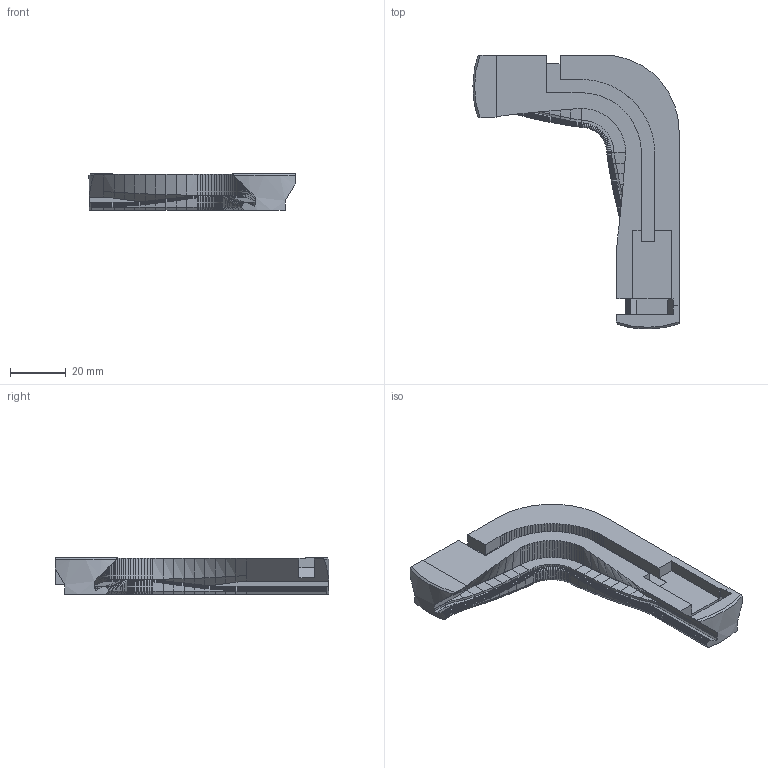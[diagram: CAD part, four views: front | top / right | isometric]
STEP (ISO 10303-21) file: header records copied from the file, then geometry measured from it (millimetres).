
FILE_DESCRIPTION(('Open CASCADE Model'),'2;1');
FILE_NAME('Open CASCADE Shape Model','2026-10-27T10:18:55',('Author'),( 'Open CASCADE'),'Open CASCADE STEP processor 8.0','build123d', 'Unknown');
FILE_SCHEMA(('AUTOMOTIVE_DESIGN { 1 0 10303 214 1 1 1 1 }'));
Products named in the file (1): SOLID
Bounding box: 74.1 x 98.5 x 13.25 mm (x, y, z)
Volume: 29396.1 mm3; surface area: 12303.7 mm2
Topology: 1 solids, 1 shells, 1520 faces, 3303 edges, 1787 vertices
Faces by surface type: bspline 1208, plane 303, cylinder 6, cone 3
Full cylindrical faces by diameter (mm): 4 x2
Entity records: 80008 total; most frequent: CARTESIAN_POINT 21244, DIRECTION 7472, LINE 6617, VECTOR 6617, ORIENTED_EDGE 6606, PCURVE 6606, DEFINITIONAL_REPRESENTATION 6606, EDGE_CURVE 3303
